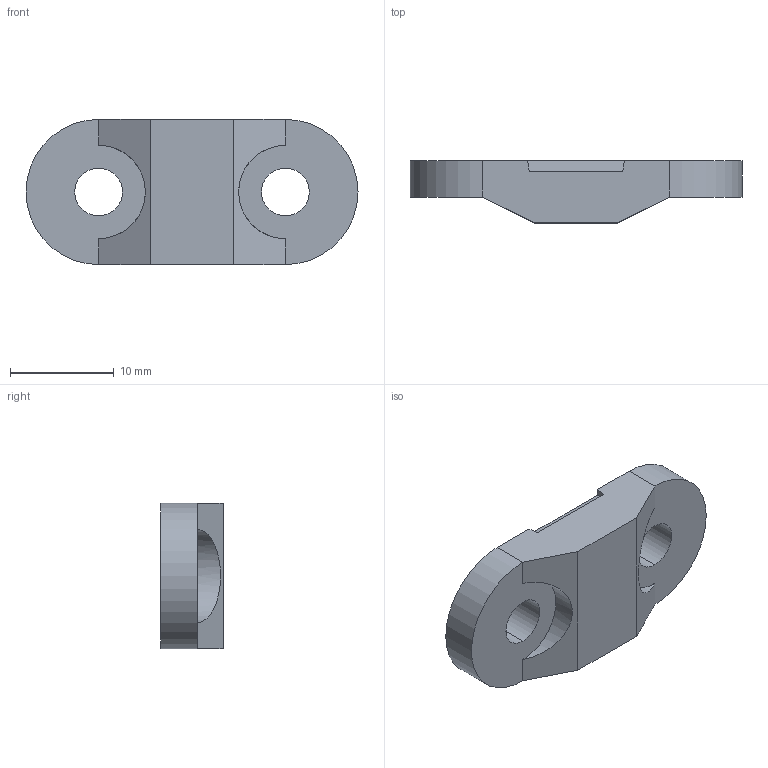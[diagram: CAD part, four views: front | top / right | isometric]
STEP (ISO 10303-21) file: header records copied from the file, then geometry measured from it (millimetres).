
FILE_DESCRIPTION (( 'STEP AP203' ), '1' );
FILE_NAME ('X BELT CLAMP GT2.STEP', '2012-08-20T19:24:26', ( '' ), ( '' ), 'SwSTEP 2.0', 'SolidWorks 2012', '' );
FILE_SCHEMA (( 'CONFIG_CONTROL_DESIGN' ));
Length unit declared in the file: millimetre
Products named in the file (1): X BELT CLAMP GT2
Bounding box: 32 x 6 x 14 mm (x, y, z)
Volume: 1623.1 mm3; surface area: 1344.3 mm2
Topology: 1 solids, 1 shells, 54 faces, 134 edges, 88 vertices
Faces by surface type: plane 46, cylinder 8
Entity records: 1665 total; most frequent: CARTESIAN_POINT 283, ORIENTED_EDGE 268, DIRECTION 256, EDGE_CURVE 134, VECTOR 118, LINE 118, VERTEX_POINT 88, AXIS2_PLACEMENT_3D 69
